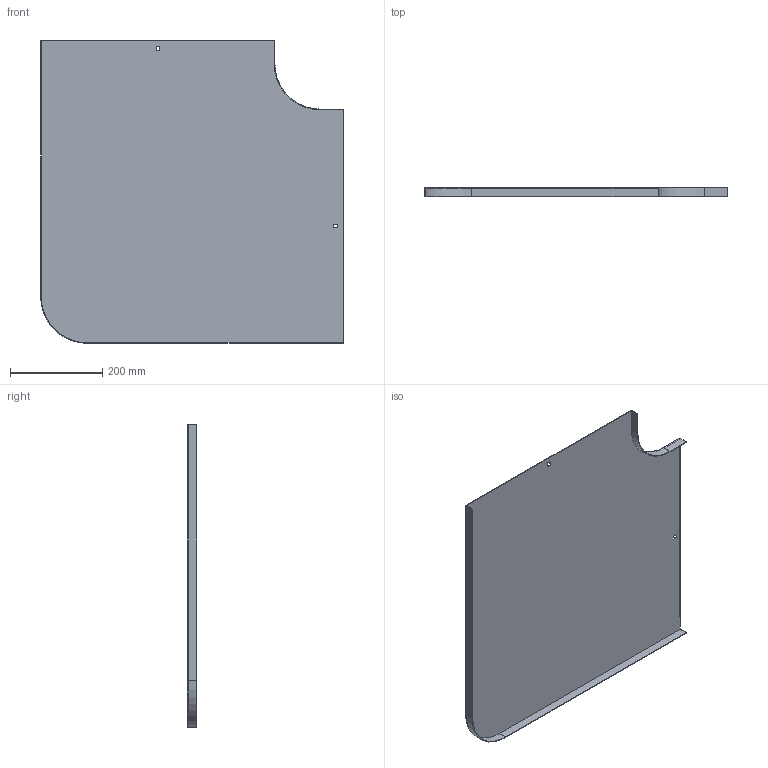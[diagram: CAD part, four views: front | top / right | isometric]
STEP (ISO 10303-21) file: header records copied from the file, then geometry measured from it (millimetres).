
FILE_DESCRIPTION (( 'STEP AP214' ), '1' );
FILE_NAME ('10N1R500.step', '2025-02-21T09:21:57', ( '' ), ( '' ), 'SwSTEP 2.0', 'SolidWorks 2023', '' );
FILE_SCHEMA (( 'AUTOMOTIVE_DESIGN' ));
Length unit declared in the file: millimetre
Products named in the file (1): 10N1R500
Bounding box: 655.5 x 20 x 655.5 mm (x, y, z)
Volume: 653313.3 mm3; surface area: 875092.6 mm2
Topology: 1 solids, 1 shells, 26 faces, 72 edges, 48 vertices
Faces by surface type: plane 22, cylinder 4
Entity records: 855 total; most frequent: CARTESIAN_POINT 147, ORIENTED_EDGE 144, DIRECTION 134, EDGE_CURVE 72, LINE 64, VECTOR 64, VERTEX_POINT 48, AXIS2_PLACEMENT_3D 35
